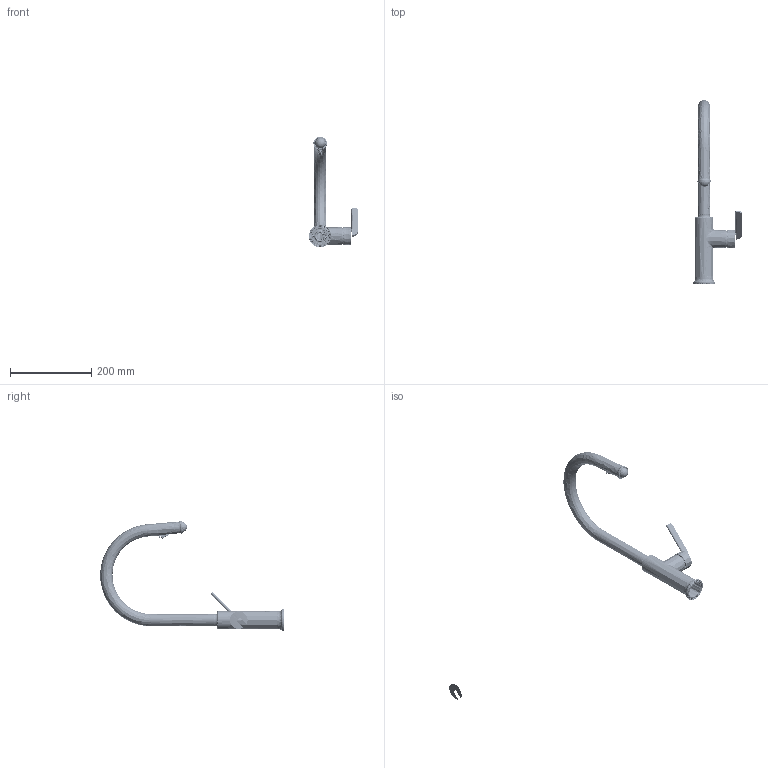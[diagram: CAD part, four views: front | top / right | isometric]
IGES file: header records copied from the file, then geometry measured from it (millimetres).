
Start section: SolidWorks IGES file using analytic representation for surfaces
Global section: file name: C:\Users\ccai\Desktop\CeliaC\Projects\0731-ADHOC-02292 Netural Files\000sku_AU201SERIES_\sku_au201series_igs.IGS; native system: SolidWorks 2023; preprocessor: SolidWorks 2023; author: ccai; date: 240725.084321; units: inch
Bounding box: 815.38 x 451.03 x 271.89 mm (x, y, z)
Surface area: 253524.1 mm2 (no closed solid volume)
Topology: 0 solids, 0 shells, 8278 faces, 74909 edges, 74591 vertices
Faces by surface type: bspline 5038, revolution 3240
